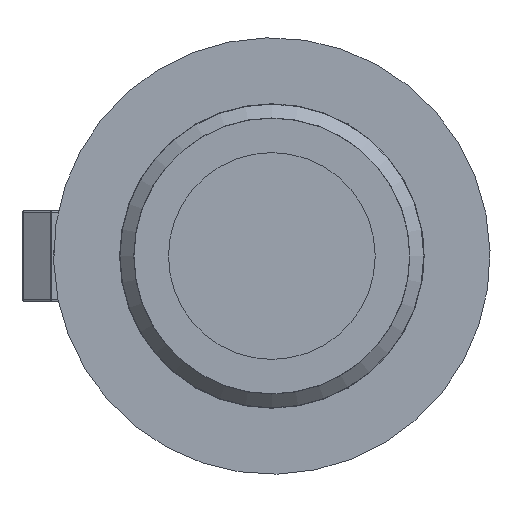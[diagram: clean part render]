
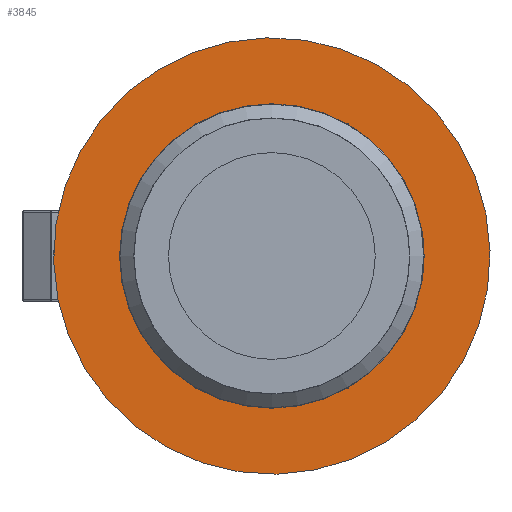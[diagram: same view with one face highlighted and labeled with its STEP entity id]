
A CAD part, front view. The second image highlights one B-rep face of the part: STEP entity #3845.
In plain terms, the highlighted planar face has unit normal (0, -1, 0).
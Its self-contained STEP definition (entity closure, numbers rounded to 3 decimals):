
#8 = CARTESIAN_POINT ( 'NONE',  ( 0., 234.25, 13.25 ) ) ;
#142 = AXIS2_PLACEMENT_3D ( 'NONE', #5340, #3272, #3597 ) ;
#340 = ORIENTED_EDGE ( 'NONE', *, *, #1216, .F. ) ;
#396 = CARTESIAN_POINT ( 'NONE',  ( 0., 234.25, 0. ) ) ;
#483 = VERTEX_POINT ( 'NONE', #8 ) ;
#1216 = EDGE_CURVE ( 'NONE', #483, #483, #1536, .T. ) ;
#1254 = CARTESIAN_POINT ( 'NONE',  ( 0., 234.25, 0. ) ) ;
#1536 = CIRCLE ( 'NONE', #142, 13.25 ) ;
#2011 = DIRECTION ( 'NONE',  ( -0.52, 0., 0.854 ) ) ;
#2227 = VERTEX_POINT ( 'NONE', #3903 ) ;
#2594 = EDGE_LOOP ( 'NONE', ( #340 ) ) ;
#2854 = DIRECTION ( 'NONE',  ( 0., 1., 0. ) ) ;
#2912 = EDGE_CURVE ( 'NONE', #2227, #2227, #3470, .T. ) ;
#2987 = PLANE ( 'NONE',  #4398 ) ;
#3030 = AXIS2_PLACEMENT_3D ( 'NONE', #396, #2854, #2011 ) ;
#3272 = DIRECTION ( 'NONE',  ( 0., -1., 0. ) ) ;
#3418 = FACE_OUTER_BOUND ( 'NONE', #3968, .T. ) ;
#3444 = FACE_BOUND ( 'NONE', #2594, .T. ) ;
#3470 = CIRCLE ( 'NONE', #3030, 19. ) ;
#3597 = DIRECTION ( 'NONE',  ( 0., 0., 1. ) ) ;
#3794 = DIRECTION ( 'NONE',  ( -0.52, 0., 0.854 ) ) ;
#3813 = ORIENTED_EDGE ( 'NONE', *, *, #2912, .F. ) ;
#3845 = ADVANCED_FACE ( 'NONE', ( #3444, #3418 ), #2987, .F. ) ;
#3903 = CARTESIAN_POINT ( 'NONE',  ( -9.888, 234.25, 16.224 ) ) ;
#3968 = EDGE_LOOP ( 'NONE', ( #3813 ) ) ;
#4168 = DIRECTION ( 'NONE',  ( 0., 1., 0. ) ) ;
#4398 = AXIS2_PLACEMENT_3D ( 'NONE', #1254, #4168, #3794 ) ;
#5340 = CARTESIAN_POINT ( 'NONE',  ( 0., 234.25, 0. ) ) ;
